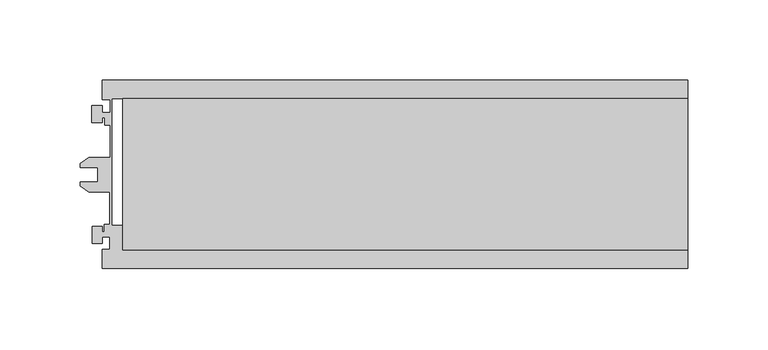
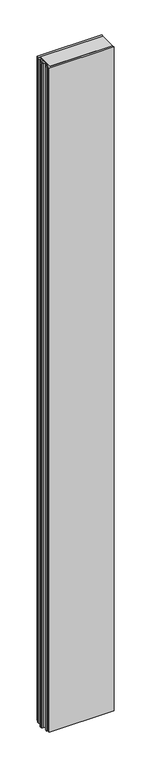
"""IFC4 building model written with IfcOpenShell, lengths in millimetres: plate geometry, Walls_External-Walls_Danpal_Danpatherm-K12 : Walls_External-Walls_Danpal_Danpatherm-K12."""

from ifc_helpers import new_model, si_unit, frame, origin, place, context, project, spatial, polyline, outline, extrude, source, transform, mapped, element, save


def plate_b110d553(model_context):
    return source(origin(), model_context, "Body", "SweptSolid", [
        extrude(outline(polyline([(-169.5547649, 105.9), (182.1941287, 105.9), (182.1941287, 11.5), (-169.5547649, 11.5), (-169.5547649, 105.9)])), frame((0.0, 0.0, -29.0), z_axis=(0.0, 0.0, 1.0), x_axis=(1.0, 0.0, 0.0)), (0.0, 0.0, 1.0), 3952.2118076),
        extrude(outline(polyline([(-182.1941287, 117.4), (182.1941287, 117.4), (182.1941287, 105.9), (-176.1393459, 105.9), (-176.1393459, 27.0), (-169.5547649, 27.0), (-169.5547649, 11.5), (182.1941287, 11.5), (182.1941287, 0.0), (-182.1941287, 0.0), (-182.1941287, 12.0), (-177.5014751, 12.0), (-177.5014751, 19.8235008), (-182.1340047, 19.8235008), (-182.1340047, 15.7697721), (-188.5813732, 15.7697721), (-188.5813732, 26.3618773), (-182.1941287, 26.3618773), (-182.1941287, 22.8208692), (-181.1014717, 22.8208692), (-181.1014717, 27.4235008), (-177.3941287, 27.4235008), (-177.3941287, 47.6749188), (-190.4656215, 47.6749188), (-195.8541339, 51.6018507), (-195.8541339, 53.8499188), (-185.0208005, 53.8499188), (-185.0208005, 63.1232521), (-195.8541339, 63.1232521), (-195.8541339, 65.3713202), (-190.4656215, 69.2982521), (-177.0941287, 69.2982521), (-177.0941287, 89.4749648), (-180.6941252, 89.4749648), (-180.6941252, 94.0775963), (-182.2068842, 94.0775963), (-182.2068842, 91.0381227), (-188.5941287, 91.0381227), (-188.5941287, 101.6302279), (-182.1467603, 101.6302279), (-182.1467603, 97.0749648), (-177.0941287, 97.0749648), (-177.0941287, 105.4), (-182.1941287, 105.4), (-182.1941287, 117.4)])), frame((0.0, 0.0, -29.0), z_axis=(0.0, 0.0, 1.0), x_axis=(1.0, 0.0, 0.0)), (0.0, 0.0, 1.0), 3952.2118076),
    ])


if __name__ == "__main__":
    model = new_model("IFC4")
    model_context = context("Model", 3, world=origin())
    ifc_project = project(units=[si_unit("LENGTHUNIT", "METRE", prefix="MILLI")], contexts=[model_context])
    site = spatial("IfcSite", under=ifc_project)
    building = spatial("IfcBuilding", under=site)
    placement = place(None, origin())
    plate_shape = plate_b110d553(model_context)
    element("IfcPlate", 1, ObjectType="Walls_External-Walls_Danpal_Danpatherm-K12 : Walls_External-Walls_Danpal_Danpatherm-K12", at=placement, inside=building, context=model_context, shape_type="MappedRepresentation", body=[
        mapped(plate_shape, transform((0.0, 0.0, 0.0), x_axis=(1.0, 0.0, 0.0), y_axis=(0.0, 1.0, 0.0), z_axis=(0.0, 0.0, 1.0))),
    ])
    save(model, "model.ifc")
